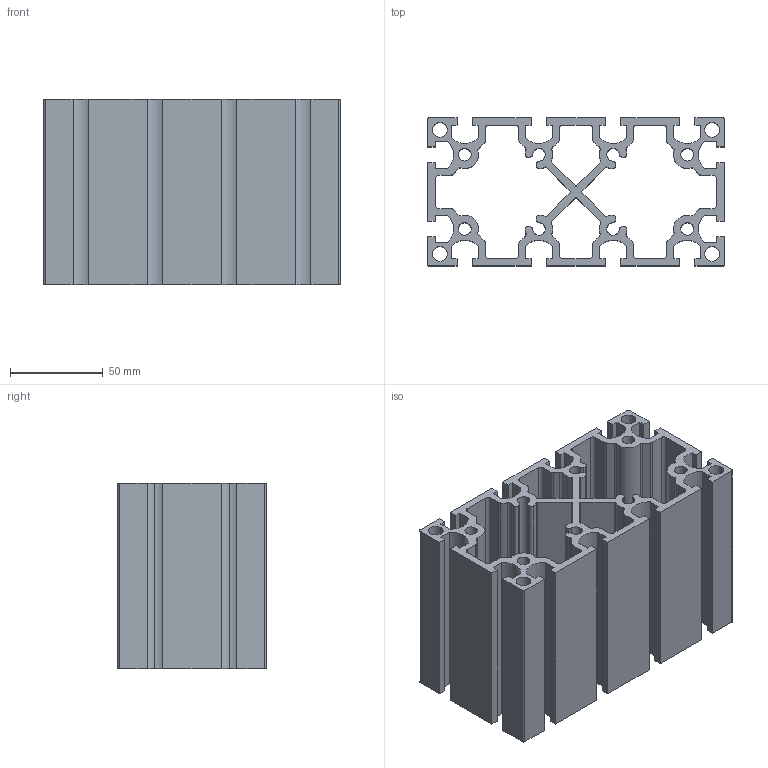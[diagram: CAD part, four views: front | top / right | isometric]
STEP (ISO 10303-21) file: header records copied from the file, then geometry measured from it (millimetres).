
FILE_DESCRIPTION (( 'STEP AP203' ), '1' );
FILE_NAME ('WS80160-8.STEP', '2024-02-19T05:34:36', ( '' ), ( '' ), 'SwSTEP 2.0', 'SolidWorks 2022', '' );
FILE_SCHEMA (( 'CONFIG_CONTROL_DESIGN' ));
Length unit declared in the file: millimetre
Products named in the file (1): WS80160-8
Bounding box: 160 x 80 x 100 mm (x, y, z)
Volume: 366747.4 mm3; surface area: 191193.6 mm2
Topology: 1 solids, 1 shells, 295 faces, 879 edges, 586 vertices
Faces by surface type: cylinder 157, plane 138
Entity records: 10132 total; most frequent: DIRECTION 1785, CARTESIAN_POINT 1761, ORIENTED_EDGE 1758, EDGE_CURVE 879, AXIS2_PLACEMENT_3D 610, VERTEX_POINT 586, VECTOR 565, LINE 565
